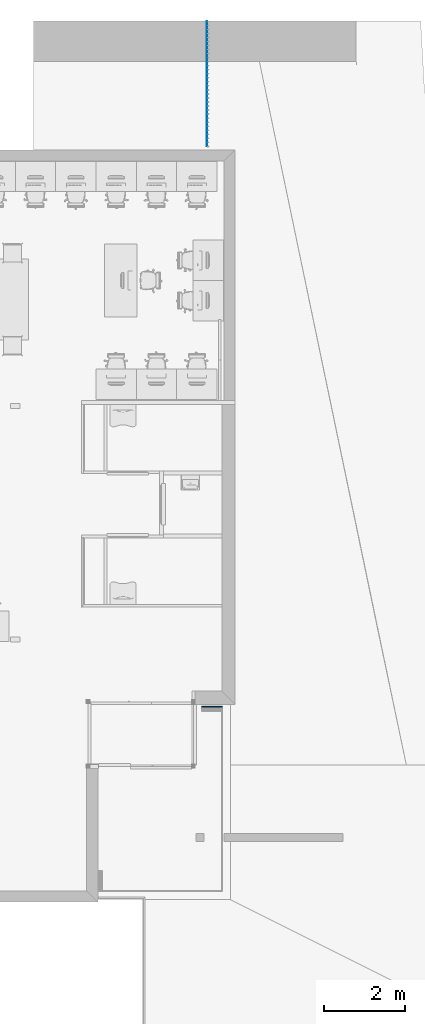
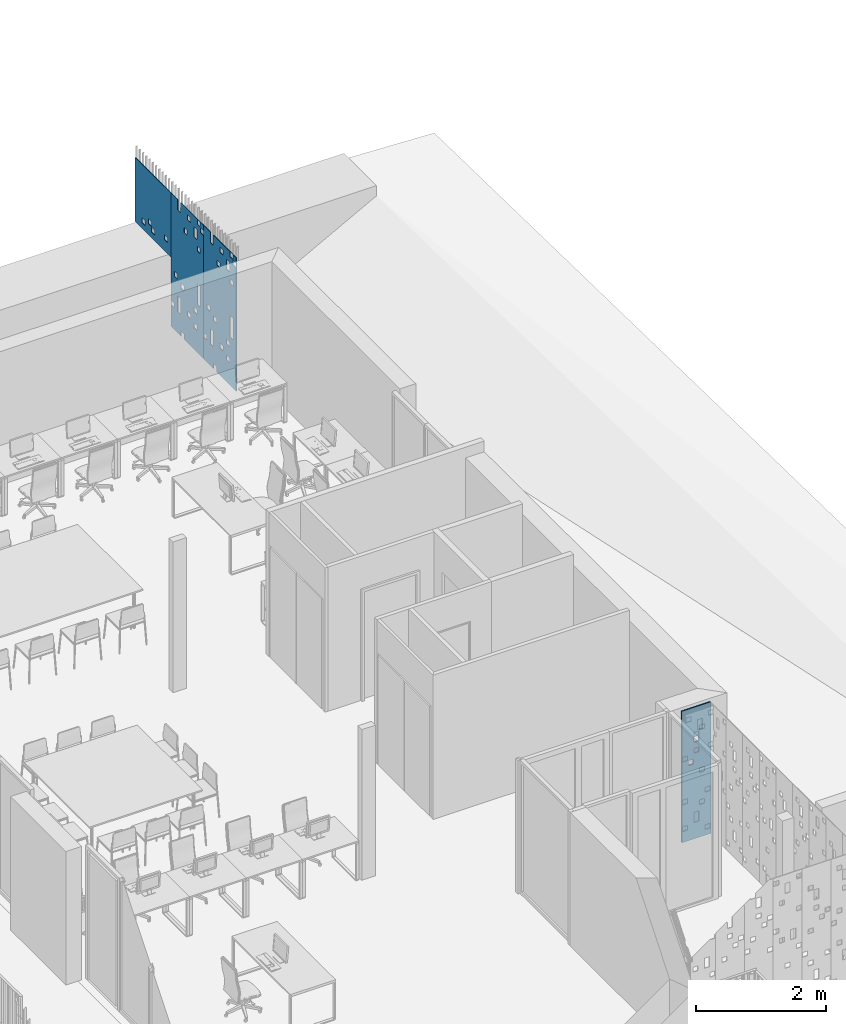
# One storey, part 10 of 51: 5 beams.
"""IFC2X3 building model written with IfcOpenShell, lengths in metres."""

from ifc_helpers import new_model, entity, si_unit, converted_unit, derived_unit, direction, frame, origin, place, context, subcontext, project, spatial, polyline, outline, extrude, material, type_object, element, save


model = new_model("IFC2X3")

# Units and contexts
model_context = context("Model", 3, precision=1e-05, world=origin(), true_north=direction((6.123031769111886e-17, 1.0)))
body_context = subcontext(model_context, "Body", "Model", "MODEL_VIEW")
ifc_project = project(units=[si_unit("LENGTHUNIT", "METRE"), si_unit("AREAUNIT", "SQUARE_METRE"), si_unit("VOLUMEUNIT", "CUBIC_METRE"), converted_unit("PLANEANGLEUNIT", "DEGREE", entity("IfcRatioMeasure", 0.017453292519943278), si_unit("PLANEANGLEUNIT", "RADIAN"), dimensions=[0, 0, 0, 0, 0, 0, 0]), si_unit("MASSUNIT", "GRAM", prefix="KILO"), derived_unit("MASSDENSITYUNIT", [(si_unit("MASSUNIT", "GRAM", prefix="KILO"), 1), (si_unit("LENGTHUNIT", "METRE"), -3)]), derived_unit("MOMENTOFINERTIAUNIT", [(si_unit("LENGTHUNIT", "METRE"), 4)]), si_unit("TIMEUNIT", "SECOND"), si_unit("FREQUENCYUNIT", "HERTZ"), si_unit("THERMODYNAMICTEMPERATUREUNIT", "DEGREE_CELSIUS"), derived_unit("THERMALTRANSMITTANCEUNIT", [(si_unit("MASSUNIT", "GRAM", prefix="KILO"), 1), (si_unit("THERMODYNAMICTEMPERATUREUNIT", "KELVIN"), -1), (si_unit("TIMEUNIT", "SECOND"), -3)]), derived_unit("THERMALCONDUCTANCEUNIT", [(si_unit("MASSUNIT", "GRAM", prefix="KILO"), 1), (si_unit("LENGTHUNIT", "METRE"), 1), (si_unit("THERMODYNAMICTEMPERATUREUNIT", "KELVIN"), -1), (si_unit("TIMEUNIT", "SECOND"), -3)]), derived_unit("VOLUMETRICFLOWRATEUNIT", [(si_unit("LENGTHUNIT", "METRE"), 3), (si_unit("TIMEUNIT", "SECOND"), -1)]), derived_unit("MASSFLOWRATEUNIT", [(si_unit("MASSUNIT", "GRAM", prefix="KILO"), 1), (si_unit("TIMEUNIT", "SECOND"), -1)]), derived_unit("ROTATIONALFREQUENCYUNIT", [(si_unit("TIMEUNIT", "SECOND"), -1)]), si_unit("ELECTRICCURRENTUNIT", "AMPERE"), si_unit("ELECTRICVOLTAGEUNIT", "VOLT"), si_unit("POWERUNIT", "WATT"), si_unit("FORCEUNIT", "NEWTON", prefix="KILO"), si_unit("ILLUMINANCEUNIT", "LUX"), si_unit("LUMINOUSFLUXUNIT", "LUMEN"), si_unit("LUMINOUSINTENSITYUNIT", "CANDELA"), derived_unit("USERDEFINED", [(si_unit("MASSUNIT", "GRAM", prefix="KILO"), -1), (si_unit("LENGTHUNIT", "METRE"), -2), (si_unit("TIMEUNIT", "SECOND"), 3), (si_unit("LUMINOUSFLUXUNIT", "LUMEN"), 1)]), derived_unit("USERDEFINED", [(si_unit("MASSUNIT", "GRAM", prefix="KILO"), 1), (si_unit("LENGTHUNIT", "METRE"), 3), (si_unit("TIMEUNIT", "SECOND"), -3), (si_unit("ELECTRICCURRENTUNIT", "AMPERE"), -2)]), derived_unit("USERDEFINED", [(si_unit("LENGTHUNIT", "METRE"), 2), (si_unit("TIMEUNIT", "SECOND"), -2)]), derived_unit("SOUNDPOWERUNIT", [(si_unit("MASSUNIT", "GRAM", prefix="KILO"), 1), (si_unit("LENGTHUNIT", "METRE"), 2), (si_unit("TIMEUNIT", "SECOND"), -3)]), derived_unit("SOUNDPRESSUREUNIT", [(si_unit("MASSUNIT", "GRAM", prefix="KILO"), 1), (si_unit("LENGTHUNIT", "METRE"), -1), (si_unit("TIMEUNIT", "SECOND"), -2)]), derived_unit("LINEARVELOCITYUNIT", [(si_unit("LENGTHUNIT", "METRE"), 1), (si_unit("TIMEUNIT", "SECOND"), -1)]), si_unit("PRESSUREUNIT", "PASCAL"), derived_unit("USERDEFINED", [(si_unit("LENGTHUNIT", "METRE"), -2), (si_unit("MASSUNIT", "GRAM", prefix="KILO"), 1), (si_unit("TIMEUNIT", "SECOND"), -2)]), derived_unit("LINEARFORCEUNIT", [(si_unit("MASSUNIT", "GRAM", prefix="KILO"), 1), (si_unit("LENGTHUNIT", "METRE"), 1), (si_unit("TIMEUNIT", "SECOND"), -2), (si_unit("LENGTHUNIT", "METRE"), -1)]), derived_unit("PLANARFORCEUNIT", [(si_unit("MASSUNIT", "GRAM", prefix="KILO"), 1), (si_unit("LENGTHUNIT", "METRE"), 1), (si_unit("TIMEUNIT", "SECOND"), -2), (si_unit("LENGTHUNIT", "METRE"), -2)]), derived_unit("SPECIFICHEATCAPACITYUNIT", [(si_unit("LENGTHUNIT", "METRE"), 2), (si_unit("TIMEUNIT", "SECOND"), -2), (si_unit("THERMODYNAMICTEMPERATUREUNIT", "KELVIN"), -1)]), derived_unit("VAPORPERMEABILITYUNIT", [(si_unit("TIMEUNIT", "SECOND"), 1), (si_unit("LENGTHUNIT", "METRE"), -1)]), derived_unit("DYNAMICVISCOSITYUNIT", [(si_unit("MASSUNIT", "GRAM", prefix="KILO"), 1), (si_unit("LENGTHUNIT", "METRE"), -1), (si_unit("TIMEUNIT", "SECOND"), -1)]), derived_unit("THERMALEXPANSIONCOEFFICIENTUNIT", [(si_unit("THERMODYNAMICTEMPERATUREUNIT", "KELVIN"), -1)])], contexts=[model_context])

# Site, building, storey
site_placement = place(None, origin())
site = spatial("IfcSite", under=ifc_project, at=site_placement, Name="Default", CompositionType="ELEMENT")
building_placement = place(site_placement, origin())
building = spatial("IfcBuilding", under=site, at=building_placement, CompositionType="ELEMENT")
storey_placement = place(building_placement, frame((0.0, 0.0, 3.06)))
storey = spatial("IfcBuildingStorey", under=building, at=storey_placement, Name="ÉTAGE", CompositionType="ELEMENT", Elevation=3.06)

# Beams
ifc_material = material(Name="Peinture - Gris foncé")
beam_type_1 = type_object("IfcBeamType", Name="Poutre-017 459277:Poutre-017 459277", PredefinedType="NOTDEFINED")
beam_1_placement = place(storey_placement, origin())
element("IfcBeam", 1, at=beam_1_placement, inside=storey, type_object=beam_type_1, material=ifc_material, Name="Poutre-017", ObjectType="Poutre-017 459277:Poutre-017 459277", context=body_context, shape_type="SweptSolid", body=[
    extrude(outline(polyline([(-1.2299999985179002, -0.25500001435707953), (1.2299999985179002, -0.25500001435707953), (1.2299999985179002, 0.2550000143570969), (-1.2299999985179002, 0.2550000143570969), (-1.2299999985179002, -0.25500001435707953)]), holes=[polyline([(-0.33499998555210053, 0.15499994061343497), (-0.42500001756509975, 0.15499994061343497), (-0.42500001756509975, 0.24500001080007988), (-0.33499998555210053, 0.24500001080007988), (-0.33499998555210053, 0.15499994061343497)]), polyline([(-1.1249999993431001, 0.24500001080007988), (-1.0349999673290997, 0.24500001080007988), (-1.0349999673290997, 0.15499994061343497), (-1.1249999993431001, 0.15499994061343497), (-1.1249999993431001, 0.24500001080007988)]), polyline([(-0.6250000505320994, 0.054999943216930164), (-0.6250000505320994, 0.14499997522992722), (-0.5349999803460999, 0.14499997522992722), (-0.5349999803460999, 0.054999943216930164), (-0.6250000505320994, 0.054999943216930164)]), polyline([(-0.9250000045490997, 0.04499993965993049), (-0.7350000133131, 0.04499993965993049), (-0.7350000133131, -0.0449999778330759), (-0.9250000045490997, -0.0449999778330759), (-0.9250000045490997, 0.04499993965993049)]), polyline([(-0.5250000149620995, -0.24500001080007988), (-0.5250000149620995, -0.1549999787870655), (-0.4349999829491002, -0.1549999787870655), (-0.4349999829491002, -0.24500001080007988), (-0.5250000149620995, -0.24500001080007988)]), polyline([(-1.0250000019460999, -0.24500001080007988), (-1.0250000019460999, -0.1549999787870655), (-0.9349999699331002, -0.1549999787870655), (-0.9349999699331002, -0.24500001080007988), (-1.0250000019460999, -0.24500001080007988)]), polyline([(0.8649999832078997, 0.054999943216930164), (0.7749999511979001, 0.054999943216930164), (0.7749999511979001, 0.14499997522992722), (0.8649999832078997, 0.14499997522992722), (0.8649999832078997, 0.054999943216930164)]), polyline([(-0.024999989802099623, 0.054999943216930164), (-0.024999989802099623, 0.14499997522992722), (0.06500004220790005, 0.14499997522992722), (0.06500004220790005, 0.054999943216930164), (-0.024999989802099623, 0.054999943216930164)]), polyline([(0.3749999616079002, 0.04499993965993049), (0.4650000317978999, 0.04499993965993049), (0.4650000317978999, -0.0449999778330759), (0.3749999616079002, -0.0449999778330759), (0.3749999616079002, 0.04499993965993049)]), polyline([(0.7650000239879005, -0.0449999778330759), (0.5749999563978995, -0.0449999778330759), (0.5749999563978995, 0.04499993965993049), (0.7650000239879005, 0.04499993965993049), (0.7650000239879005, -0.0449999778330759)]), polyline([(0.2649999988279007, -0.14499997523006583), (0.17499996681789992, -0.14499997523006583), (0.17499996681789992, -0.055000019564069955), (0.2649999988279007, -0.055000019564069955), (0.2649999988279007, -0.14499997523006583)]), polyline([(0.3649999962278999, -0.24500001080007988), (0.27499996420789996, -0.24500001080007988), (0.27499996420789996, -0.1549999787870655), (0.3649999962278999, -0.1549999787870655), (0.3649999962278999, -0.24500001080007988)])]), frame((151.72575229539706, 12.4222096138, 2.4600000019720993), z_axis=(0.0, 1.0, 0.0), x_axis=(0.0, 0.0, 1.0)), (0.0, 0.0, 1.0), 0.009999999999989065),
])
beam_type_2 = type_object("IfcBeamType", Name="Poutre-017 459230:Poutre-017 459230", PredefinedType="NOTDEFINED")
beam_2_placement = place(storey_placement, origin())
element("IfcBeam", 2, at=beam_2_placement, inside=storey, type_object=beam_type_2, material=ifc_material, Name="Poutre-017", ObjectType="Poutre-017 459230:Poutre-017 459230", context=body_context, shape_type="SweptSolid", body=[
    extrude(outline(polyline([(-0.25500000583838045, -1.2299999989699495), (0.25500000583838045, -1.2299999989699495), (0.25500000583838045, 1.22999999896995), (-0.25500000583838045, 1.22999999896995), (-0.25500000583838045, -1.2299999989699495)]), holes=[polyline([(-0.24500002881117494, 1.1250000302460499), (-0.1549999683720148, 1.1250000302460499), (-0.1549999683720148, 1.03499996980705), (-0.24500002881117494, 1.03499996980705), (-0.24500002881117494, 1.1250000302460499)]), polyline([(-0.054999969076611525, 0.4250000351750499), (-0.054999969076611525, 0.33499997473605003), (-0.14499999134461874, 0.33499997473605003), (-0.14499999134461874, 0.4250000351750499), (-0.054999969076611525, 0.4250000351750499)]), polyline([(0.044999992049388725, 0.5350000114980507), (-0.04499999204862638, 0.5350000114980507), (-0.04499999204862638, 0.7249999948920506), (0.044999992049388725, 0.7249999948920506), (0.044999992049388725, 0.5350000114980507)]), polyline([(0.24499999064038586, 0.9250000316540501), (0.24499999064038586, 0.8350000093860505), (0.15500000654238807, 0.8350000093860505), (0.15500000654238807, 0.9250000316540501), (0.24499999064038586, 0.9250000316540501)]), polyline([(0.15500000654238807, 0.12500003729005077), (0.24499999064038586, 0.12500003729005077), (0.24499999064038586, 0.03500001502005), (0.15500000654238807, 0.03500001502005), (0.15500000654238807, 0.12500003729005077)]), polyline([(-0.14499999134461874, -0.9749999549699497), (-0.054999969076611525, -0.9749999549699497), (-0.054999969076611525, -1.06499997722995), (-0.14499999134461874, -1.06499997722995), (-0.14499999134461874, -0.9749999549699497)]), polyline([(-0.24500002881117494, 0.025000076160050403), (-0.1549999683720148, 0.025000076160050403), (-0.1549999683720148, -0.06499998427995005), (-0.24500002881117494, -0.06499998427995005), (-0.24500002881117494, 0.025000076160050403)]), polyline([(-0.054999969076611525, -0.2650000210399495), (-0.14499999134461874, -0.2650000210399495), (-0.14499999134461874, -0.17499996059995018), (-0.054999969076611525, -0.17499996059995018), (-0.054999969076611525, -0.2650000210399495)]), polyline([(-0.04499999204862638, -0.5749999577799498), (0.044999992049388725, -0.5749999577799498), (0.044999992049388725, -0.6650000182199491), (-0.04499999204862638, -0.6650000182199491), (-0.04499999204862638, -0.5749999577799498)]), polyline([(0.044999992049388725, -0.7749999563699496), (0.044999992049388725, -0.965000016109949), (-0.04499999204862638, -0.965000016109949), (-0.04499999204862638, -0.7749999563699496), (0.044999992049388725, -0.7749999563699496)]), polyline([(0.14499999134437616, -0.4650000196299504), (0.05500000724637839, -0.4650000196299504), (0.05500000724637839, -0.37499995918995), (0.14499999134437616, -0.37499995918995), (0.14499999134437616, -0.4650000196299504)]), polyline([(0.24499999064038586, -0.4749999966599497), (0.24499999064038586, -0.5650000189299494), (0.15500000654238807, -0.5650000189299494), (0.15500000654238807, -0.4749999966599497), (0.24499999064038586, -0.4749999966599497)])]), frame((151.7257523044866, 12.437209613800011, 2.46000001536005), z_axis=(0.0, 1.0, 0.0), x_axis=(1.0, 0.0, 0.0)), (0.0, 0.0, 1.0), 0.009999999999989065),
])
beam_type_3 = type_object("IfcBeamType", Name="Poutre-017 457192:Poutre-017 457192", PredefinedType="NOTDEFINED")
beam_3_placement = place(storey_placement, origin())
element("IfcBeam", 3, at=beam_3_placement, inside=storey, type_object=beam_type_3, material=ifc_material, Name="Poutre-017", ObjectType="Poutre-017 457192:Poutre-017 457192", context=body_context, shape_type="SweptSolid", body=[
    extrude(outline(polyline([(-0.6333333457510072, -1.2333333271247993), (-0.028333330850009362, -1.2333333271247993), (-0.028333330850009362, -1.1383333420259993), (0.06166667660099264, -1.1383333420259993), (0.06166667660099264, -1.2333333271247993), (0.36666665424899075, -1.2333333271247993), (0.36666665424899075, 1.2666666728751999), (0.161666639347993, 1.2666666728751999), (0.161666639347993, 1.0716666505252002), (0.07166670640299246, 1.0716666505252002), (0.07166670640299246, 1.2666666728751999), (-0.6333333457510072, 1.2666666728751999), (-0.6333333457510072, -1.2333333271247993)]), holes=[polyline([(-0.5283333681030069, 0.061666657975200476), (-0.4383333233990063, 0.061666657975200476), (-0.4383333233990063, -0.3283333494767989), (-0.5283333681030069, -0.3283333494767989), (-0.5283333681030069, 0.061666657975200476)]), polyline([(-0.3383333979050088, -0.738333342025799), (-0.3383333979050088, -0.8283333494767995), (-0.4283333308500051, -0.8283333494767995), (-0.4283333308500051, -0.738333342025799), (-0.3383333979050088, -0.738333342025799)]), polyline([(-0.3383333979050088, -0.4383333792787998), (-0.3383333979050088, -0.5283333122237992), (-0.4283333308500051, -0.5283333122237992), (-0.4283333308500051, -0.4383333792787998), (-0.3383333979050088, -0.4383333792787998)]), polyline([(-0.22833336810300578, -0.7283333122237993), (-0.22833336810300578, -0.6383333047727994), (-0.1383333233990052, -0.6383333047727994), (-0.1383333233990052, -0.7283333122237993), (-0.22833336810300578, -0.7283333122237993)]), polyline([(0.06166667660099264, -0.2383333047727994), (0.06166667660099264, -0.3283333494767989), (-0.028333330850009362, -0.3283333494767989), (-0.028333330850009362, -0.2383333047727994), (0.06166667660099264, -0.2383333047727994)]), polyline([(0.07166670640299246, -0.8283333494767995), (0.07166670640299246, -0.5383333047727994), (0.161666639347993, -0.5383333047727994), (0.161666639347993, -0.8283333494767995), (0.07166670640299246, -0.8283333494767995)]), polyline([(0.17166663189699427, -0.13833330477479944), (0.2616666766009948, -0.13833330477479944), (0.2616666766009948, -0.2283333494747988), (0.17166663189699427, -0.2283333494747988), (0.17166663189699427, -0.13833330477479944)]), polyline([(0.2716666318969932, -0.738333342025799), (0.36166663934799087, -0.738333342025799), (0.36166663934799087, -0.8283333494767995), (0.2716666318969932, -0.8283333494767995), (0.2716666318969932, -0.738333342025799)]), polyline([(-0.5383333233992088, 1.1616666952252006), (-0.5383333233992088, 1.0716666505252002), (-0.6283333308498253, 1.0716666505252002), (-0.6283333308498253, 1.1616666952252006), (-0.5383333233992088, 1.1616666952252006)]), polyline([(-0.5283333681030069, 1.1716666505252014), (-0.5283333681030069, 1.2616666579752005), (-0.4383333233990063, 1.2616666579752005), (-0.4383333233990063, 1.1716666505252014), (-0.5283333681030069, 1.1716666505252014)]), polyline([(-0.1383333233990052, 1.1616666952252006), (-0.1383333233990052, 1.0716666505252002), (-0.22833336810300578, 1.0716666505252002), (-0.22833336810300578, 1.1616666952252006), (-0.1383333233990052, 1.1616666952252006)]), polyline([(-0.4383333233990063, 0.7616666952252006), (-0.4383333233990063, 0.6716666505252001), (-0.5283333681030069, 0.6716666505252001), (-0.5283333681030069, 0.7616666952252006), (-0.4383333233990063, 0.7616666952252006)]), polyline([(-0.4283333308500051, 0.8716666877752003), (-0.4283333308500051, 1.0616666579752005), (-0.3383333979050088, 1.0616666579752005), (-0.3383333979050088, 0.8716666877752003), (-0.4283333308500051, 0.8716666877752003)]), polyline([(-0.12833336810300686, 0.8616666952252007), (-0.03833332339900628, 0.8616666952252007), (-0.03833332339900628, 0.7716666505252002), (-0.12833336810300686, 0.7716666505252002), (-0.12833336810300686, 0.8616666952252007)])]), frame((151.60075228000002, 26.954496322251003, 2.443333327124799), z_axis=(1.0, 0.0, 0.0), x_axis=(0.0, 1.0, 0.0)), (0.0, 0.0, 1.0), 0.009999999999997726),
])
beam_4_placement = place(storey_placement, origin())
element("IfcBeam", 4, at=beam_4_placement, inside=storey, type_object=beam_type_3, material=ifc_material, Name="Poutre-017", ObjectType="Poutre-017 457192:Poutre-017 457192", context=body_context, shape_type="SweptSolid", body=[
    extrude(outline(polyline([(-0.6333333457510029, -1.2333333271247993), (-0.0283333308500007, -1.2333333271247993), (-0.0283333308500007, -1.1383333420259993), (0.06166667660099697, -1.1383333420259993), (0.06166667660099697, -1.2333333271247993), (0.3666666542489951, -1.2333333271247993), (0.3666666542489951, 1.2666666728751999), (0.16166663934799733, 1.2666666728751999), (0.16166663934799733, 1.0716666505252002), (0.07166670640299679, 1.0716666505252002), (0.07166670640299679, 1.2666666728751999), (-0.6333333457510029, 1.2666666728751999), (-0.6333333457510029, -1.2333333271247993)]), holes=[polyline([(-0.5283333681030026, 0.061666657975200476), (-0.438333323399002, 0.061666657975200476), (-0.438333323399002, -0.3283333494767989), (-0.5283333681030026, -0.3283333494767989), (-0.5283333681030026, 0.061666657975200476)]), polyline([(-0.3383333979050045, -0.738333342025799), (-0.3383333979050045, -0.8283333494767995), (-0.42833333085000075, -0.8283333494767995), (-0.42833333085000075, -0.738333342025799), (-0.3383333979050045, -0.738333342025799)]), polyline([(-0.3383333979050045, -0.4383333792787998), (-0.3383333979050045, -0.5283333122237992), (-0.42833333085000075, -0.5283333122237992), (-0.42833333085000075, -0.4383333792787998), (-0.3383333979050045, -0.4383333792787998)]), polyline([(-0.22833336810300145, -0.7283333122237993), (-0.22833336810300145, -0.6383333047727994), (-0.13833332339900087, -0.6383333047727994), (-0.13833332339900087, -0.7283333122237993), (-0.22833336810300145, -0.7283333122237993)]), polyline([(0.06166667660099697, -0.2383333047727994), (0.06166667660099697, -0.3283333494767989), (-0.0283333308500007, -0.3283333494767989), (-0.0283333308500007, -0.2383333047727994), (0.06166667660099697, -0.2383333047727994)]), polyline([(0.07166670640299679, -0.8283333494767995), (0.07166670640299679, -0.5383333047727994), (0.16166663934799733, -0.5383333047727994), (0.16166663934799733, -0.8283333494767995), (0.07166670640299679, -0.8283333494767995)]), polyline([(0.1716666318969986, -0.13833330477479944), (0.2616666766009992, -0.13833330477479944), (0.2616666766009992, -0.2283333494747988), (0.1716666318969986, -0.2283333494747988), (0.1716666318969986, -0.13833330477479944)]), polyline([(0.2716666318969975, -0.738333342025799), (0.3616666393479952, -0.738333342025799), (0.3616666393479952, -0.8283333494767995), (0.2716666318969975, -0.8283333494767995), (0.2716666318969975, -0.738333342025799)]), polyline([(-0.5383333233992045, 1.1616666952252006), (-0.5383333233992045, 1.0716666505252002), (-0.628333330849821, 1.0716666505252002), (-0.628333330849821, 1.1616666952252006), (-0.5383333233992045, 1.1616666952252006)]), polyline([(-0.5283333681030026, 1.1716666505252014), (-0.5283333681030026, 1.2616666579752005), (-0.438333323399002, 1.2616666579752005), (-0.438333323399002, 1.1716666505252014), (-0.5283333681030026, 1.1716666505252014)]), polyline([(-0.13833332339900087, 1.1616666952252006), (-0.13833332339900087, 1.0716666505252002), (-0.22833336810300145, 1.0716666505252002), (-0.22833336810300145, 1.1616666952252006), (-0.13833332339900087, 1.1616666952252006)]), polyline([(-0.438333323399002, 0.7616666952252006), (-0.438333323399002, 0.6716666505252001), (-0.5283333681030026, 0.6716666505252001), (-0.5283333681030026, 0.7616666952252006), (-0.438333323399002, 0.7616666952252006)]), polyline([(-0.42833333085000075, 0.8716666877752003), (-0.42833333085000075, 1.0616666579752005), (-0.3383333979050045, 1.0616666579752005), (-0.3383333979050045, 0.8716666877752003), (-0.42833333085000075, 0.8716666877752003)]), polyline([(-0.12833336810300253, 0.8616666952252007), (-0.03833332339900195, 0.8616666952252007), (-0.03833332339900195, 0.7716666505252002), (-0.12833336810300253, 0.7716666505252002), (-0.12833336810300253, 0.8616666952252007)])]), frame((151.60075228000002, 27.954496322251, 2.443333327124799), z_axis=(1.0, 0.0, 0.0), x_axis=(0.0, 1.0, 0.0)), (0.0, 0.0, 1.0), 0.009999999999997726),
])
beam_type_4 = type_object("IfcBeamType", Name="Poutre-017 441781:Poutre-017 441781", PredefinedType="NOTDEFINED")
beam_5_placement = place(storey_placement, origin())
element("IfcBeam", 5, at=beam_5_placement, inside=storey, type_object=beam_type_4, material=ifc_material, Name="Poutre-017", ObjectType="Poutre-017 441781:Poutre-017 441781", context=body_context, shape_type="SweptSolid", body=[
    extrude(outline(polyline([(-0.549999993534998, -0.6000000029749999), (0.5499999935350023, -0.6000000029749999), (0.5499999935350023, 0.6000000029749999), (-0.549999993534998, 0.6000000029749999), (-0.549999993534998, -0.6000000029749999)]), holes=[polyline([(-0.4449999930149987, -0.3949999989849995), (-0.4449999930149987, -0.3050000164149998), (-0.35499999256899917, -0.3050000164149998), (-0.35499999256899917, -0.3949999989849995), (-0.4449999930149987, -0.3949999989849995)]), polyline([(0.05500000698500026, -0.3949999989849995), (0.05500000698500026, -0.3050000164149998), (0.1450000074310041, -0.3050000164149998), (0.1450000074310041, -0.3949999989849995), (0.05500000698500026, -0.3949999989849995)]), polyline([(0.045000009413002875, -0.40499999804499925), (0.045000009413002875, -0.49499999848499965), (-0.04499999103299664, -0.49499999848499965), (-0.04499999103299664, -0.40499999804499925), (0.045000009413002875, -0.40499999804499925)]), polyline([(0.34500000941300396, -0.40499999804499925), (0.34500000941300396, -0.49499999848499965), (0.25500000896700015, -0.49499999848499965), (0.25500000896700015, -0.40499999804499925), (0.34500000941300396, -0.40499999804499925)])]), frame((151.60075228, 28.871162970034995, 3.1099999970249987), z_axis=(1.0, 0.0, 0.0), x_axis=(0.0, 1.0, 0.0)), (0.0, 0.0, 1.0), 0.009999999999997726),
])

save(model, "model.ifc")
